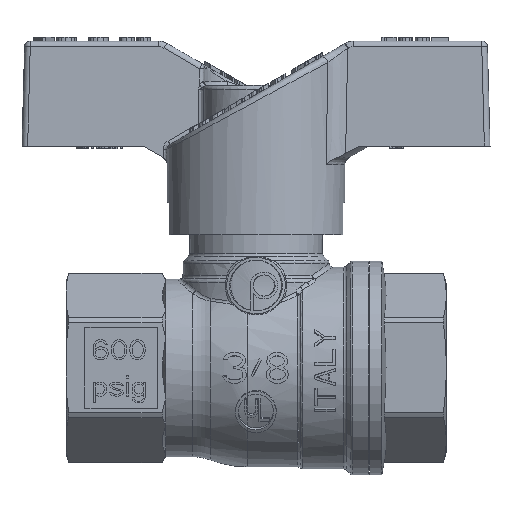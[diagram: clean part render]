
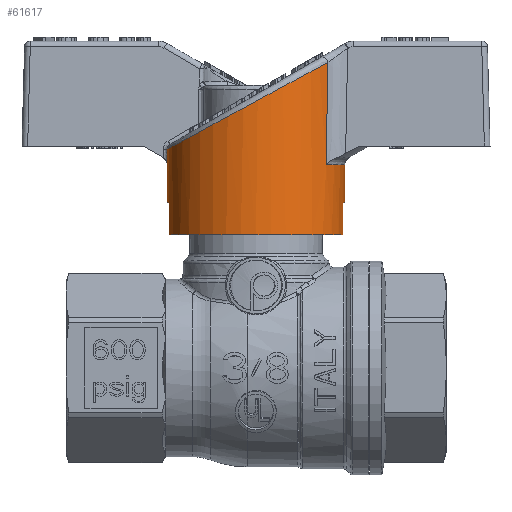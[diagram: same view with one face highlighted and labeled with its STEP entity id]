
A CAD part, top view. The second image highlights one B-rep face of the part: STEP entity #61617.
In plain terms, the highlighted cylindrical face has radius 11 mm (diameter 22 mm), a partial arc.
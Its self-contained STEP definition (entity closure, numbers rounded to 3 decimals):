
#50767=CARTESIAN_POINT('',(0.,8.691,0.));
#50768=DIRECTION('',(0.,-1.,0.));
#50769=DIRECTION('',(-1.,0.,0.));
#50770=AXIS2_PLACEMENT_3D('',#50767,#50768,#50769);
#50772=DIRECTION('',(0.,-1.,0.));
#50773=VECTOR('',#50772,4.691);
#50774=CARTESIAN_POINT('',(-11.,8.691,0.));
#50775=LINE('',#50774,#50773);
#50776=CARTESIAN_POINT('',(0.,4.,0.));
#50777=DIRECTION('',(0.,1.,0.));
#50778=DIRECTION('',(-0.979,0.,-0.205));
#50779=AXIS2_PLACEMENT_3D('',#50776,#50777,#50778);
#50781=DIRECTION('',(0.,1.,0.));
#50782=VECTOR('',#50781,4.);
#50783=CARTESIAN_POINT('',(-10.767,0.,-2.253));
#50784=LINE('',#50783,#50782);
#50785=DIRECTION('',(0.,1.,0.));
#50786=VECTOR('',#50785,4.);
#50787=CARTESIAN_POINT('',(10.767,0.,-2.25));
#50788=LINE('',#50787,#50786);
#50789=CARTESIAN_POINT('',(0.,4.,0.));
#50790=DIRECTION('',(0.,1.,0.));
#50791=DIRECTION('',(1.,0.,0.));
#50792=AXIS2_PLACEMENT_3D('',#50789,#50790,#50791);
#50794=DIRECTION('',(0.,-1.,0.));
#50795=VECTOR('',#50794,4.691);
#50796=CARTESIAN_POINT('',(11.,8.691,0.));
#50797=LINE('',#50796,#50795);
#50798=CARTESIAN_POINT('',(0.,8.691,0.));
#50799=DIRECTION('',(0.,-1.,0.));
#50800=DIRECTION('',(0.999,0.,-0.049));
#50801=AXIS2_PLACEMENT_3D('',#50798,#50799,#50800);
#50803=CARTESIAN_POINT('',(10.989,10.602,
-0.488));
#50804=CARTESIAN_POINT('',(10.975,10.609,
-0.804));
#50805=CARTESIAN_POINT('',(10.92,10.639,
-1.42));
#50806=CARTESIAN_POINT('',(10.774,10.718,
-2.274));
#50807=CARTESIAN_POINT('',(10.563,10.832,
-3.112));
#50808=CARTESIAN_POINT('',(10.284,10.983,
-3.935));
#50809=CARTESIAN_POINT('',(9.944,11.167,
-4.729));
#50810=CARTESIAN_POINT('',(9.549,11.38,
-5.483));
#50811=CARTESIAN_POINT('',(9.102,11.622,
-6.196));
#50812=CARTESIAN_POINT('',(8.596,11.896,
-6.882));
#50813=CARTESIAN_POINT('',(8.008,12.213,
-7.56));
#50814=CARTESIAN_POINT('',(7.308,12.592,-8.243));
#50815=CARTESIAN_POINT('',(6.458,13.052,
-8.93));
#50816=CARTESIAN_POINT('',(5.426,13.609,
-9.598));
#50817=CARTESIAN_POINT('',(4.18,14.283,
-10.21));
#50818=CARTESIAN_POINT('',(2.722,15.071,
-10.697));
#50819=CARTESIAN_POINT('',(1.141,15.926,
-10.98));
#50820=CARTESIAN_POINT('',(-0.425,16.772,
-11.027));
#50821=CARTESIAN_POINT('',(-1.882,17.56,
-10.868));
#50822=CARTESIAN_POINT('',(-3.179,18.261,
-10.556));
#50823=CARTESIAN_POINT('',(-4.307,18.871,
-10.143));
#50824=CARTESIAN_POINT('',(-5.282,19.398,
-9.667));
#50825=CARTESIAN_POINT('',(-6.131,19.857,
-9.149));
#50826=CARTESIAN_POINT('',(-6.86,20.251,
-8.613));
#50827=CARTESIAN_POINT('',(-7.525,20.611,
-8.04));
#50828=CARTESIAN_POINT('',(-8.193,20.972,
-7.364));
#50829=CARTESIAN_POINT('',(-8.665,21.227,-6.787));
#50830=CARTESIAN_POINT('',(-8.899,21.353,
-6.466));
#50870=CARTESIAN_POINT('',(0.,0.,0.));
#50871=DIRECTION('',(0.,-1.,0.));
#50872=DIRECTION('',(-0.979,0.,-0.205));
#50873=AXIS2_PLACEMENT_3D('',#50870,#50871,#50872);
#52769=CARTESIAN_POINT('',(-8.703,8.691,
-6.727));
#52770=CARTESIAN_POINT('',(-8.726,10.082,
-6.698));
#52771=CARTESIAN_POINT('',(-8.769,12.875,
-6.641));
#52772=CARTESIAN_POINT('',(-8.835,17.095,
-6.554));
#52773=CARTESIAN_POINT('',(-8.877,19.93,
-6.496));
#52774=CARTESIAN_POINT('',(-8.899,21.353,
-6.466));
#53925=CARTESIAN_POINT('',(10.989,10.602,
-0.488));
#53926=CARTESIAN_POINT('',(10.989,10.389,
-0.494));
#53927=CARTESIAN_POINT('',(10.988,9.964,
-0.504));
#53928=CARTESIAN_POINT('',(10.988,9.327,
-0.52));
#53929=CARTESIAN_POINT('',(10.987,8.903,
-0.531));
#53930=CARTESIAN_POINT('',(10.987,8.691,
-0.536));
#59882=CARTESIAN_POINT('',(-11.,4.,0.));
#59884=VERTEX_POINT('',#59882);
#59895=CARTESIAN_POINT('',(10.767,0.,-2.25));
#59897=VERTEX_POINT('',#59895);
#59898=CARTESIAN_POINT('',(-10.767,0.,-2.253));
#59900=VERTEX_POINT('',#59898);
#59904=CARTESIAN_POINT('',(10.767,4.,-2.25));
#59905=VERTEX_POINT('',#59904);
#59906=CARTESIAN_POINT('',(-10.767,4.,-2.253));
#59907=VERTEX_POINT('',#59906);
#59952=CARTESIAN_POINT('',(11.,4.,0.));
#59953=VERTEX_POINT('',#59952);
#59959=CARTESIAN_POINT('',(-8.899,21.353,
-6.466));
#59961=VERTEX_POINT('',#59959);
#59985=VERTEX_POINT('',#50803);
#61520=CARTESIAN_POINT('',(-11.,8.691,0.));
#61521=CARTESIAN_POINT('',(-8.703,8.691,
-6.727));
#61522=VERTEX_POINT('',#61520);
#61523=VERTEX_POINT('',#61521);
#61528=CARTESIAN_POINT('',(11.,8.691,0.));
#61530=VERTEX_POINT('',#61528);
#61534=CARTESIAN_POINT('',(10.987,8.691,
-0.536));
#61535=VERTEX_POINT('',#61534);
#61589=CARTESIAN_POINT('',(0.,-0.925,0.));
#61590=DIRECTION('',(0.,1.,0.));
#61591=DIRECTION('',(1.,0.,0.));
#61592=AXIS2_PLACEMENT_3D('',#61589,#61590,#61591);
#61593=CYLINDRICAL_SURFACE('',#61592,11.);
#61594=ORIENTED_EDGE('',*,*,#61576,.F.);
#61595=ORIENTED_EDGE('',*,*,#61565,.T.);
#61597=ORIENTED_EDGE('',*,*,#61596,.F.);
#61599=ORIENTED_EDGE('',*,*,#61598,.F.);
#61601=ORIENTED_EDGE('',*,*,#61600,.T.);
#61603=ORIENTED_EDGE('',*,*,#61602,.T.);
#61605=ORIENTED_EDGE('',*,*,#61604,.F.);
#61606=ORIENTED_EDGE('',*,*,#61553,.F.);
#61608=ORIENTED_EDGE('',*,*,#61607,.F.);
#61610=ORIENTED_EDGE('',*,*,#61609,.F.);
#61612=ORIENTED_EDGE('',*,*,#61611,.T.);
#61614=ORIENTED_EDGE('',*,*,#61613,.F.);
#61615=EDGE_LOOP('',(#61594,#61595,#61597,#61599,#61601,#61603,#61605,#61606,
#61608,#61610,#61612,#61614));
#61616=FACE_OUTER_BOUND('',#61615,.F.);
#61617=ADVANCED_FACE('',(#61616),#61593,.T.);
#50771=CIRCLE('',#50770,11.);
#50780=CIRCLE('',#50779,11.);
#50793=CIRCLE('',#50792,11.);
#50802=CIRCLE('',#50801,11.);
#50831=B_SPLINE_CURVE_WITH_KNOTS('',3,(#50803,#50804,#50805,#50806,#50807,
#50808,#50809,#50810,#50811,#50812,#50813,#50814,#50815,#50816,#50817,#50818,
#50819,#50820,#50821,#50822,#50823,#50824,#50825,#50826,#50827,#50828,#50829,
#50830),.UNSPECIFIED.,.F.,.F.,(4,1,1,1,1,1,1,1,1,1,1,1,1,1,1,1,1,1,1,1,1,1,1,1,
1,4),(0.,0.04,0.08,0.12,0.16,0.2,0.24,0.28,0.32,0.36,0.4,
0.44,0.48,0.52,0.56,0.6,0.64,0.68,0.72,0.76,0.8,0.84,
0.88,0.92,0.96,1.),.UNSPECIFIED.);
#50874=CIRCLE('',#50873,11.);
#52775=B_SPLINE_CURVE_WITH_KNOTS('',3,(#52769,#52770,#52771,#52772,#52773,
#52774),.UNSPECIFIED.,.F.,.F.,(4,1,1,4),(0.,0.333,
0.667,1.),.UNSPECIFIED.);
#53931=B_SPLINE_CURVE_WITH_KNOTS('',3,(#53925,#53926,#53927,#53928,#53929,
#53930),.UNSPECIFIED.,.F.,.F.,(4,1,1,4),(0.,0.333,
0.667,1.),.UNSPECIFIED.);
#61553=EDGE_CURVE('',#61530,#59953,#50797,.T.);
#61565=EDGE_CURVE('',#61522,#59884,#50775,.T.);
#61576=EDGE_CURVE('',#61522,#61523,#50771,.T.);
#61596=EDGE_CURVE('',#59907,#59884,#50780,.T.);
#61598=EDGE_CURVE('',#59900,#59907,#50784,.T.);
#61600=EDGE_CURVE('',#59900,#59897,#50874,.T.);
#61602=EDGE_CURVE('',#59897,#59905,#50788,.T.);
#61604=EDGE_CURVE('',#59953,#59905,#50793,.T.);
#61607=EDGE_CURVE('',#61535,#61530,#50802,.T.);
#61609=EDGE_CURVE('',#59985,#61535,#53931,.T.);
#61611=EDGE_CURVE('',#59985,#59961,#50831,.T.);
#61613=EDGE_CURVE('',#61523,#59961,#52775,.T.);
